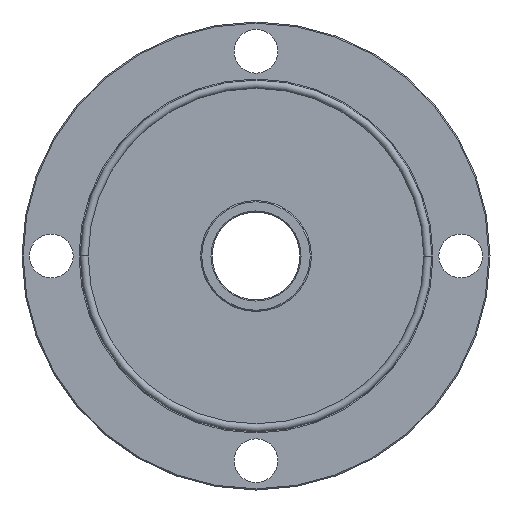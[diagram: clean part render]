
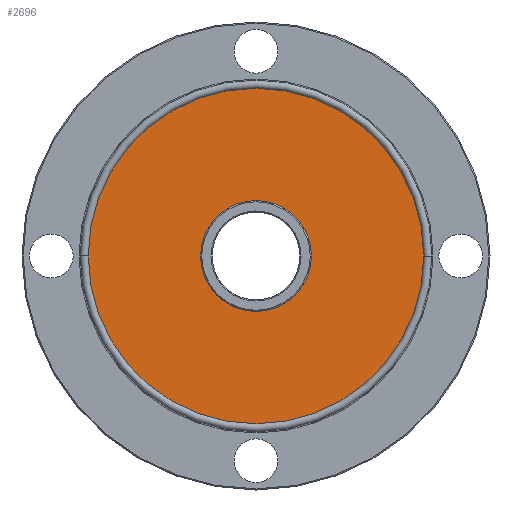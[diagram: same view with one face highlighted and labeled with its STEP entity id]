
A CAD part, left-side view. The second image highlights one B-rep face of the part: STEP entity #2696.
In plain terms, the highlighted planar face has unit normal (-1, 0, 0).
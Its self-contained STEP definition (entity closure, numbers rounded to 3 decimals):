
#2109 = EDGE_CURVE ( 'NONE', #2110, #2114, #27760, .T. ) ;
#2110 = VERTEX_POINT ( 'NONE', #27755 ) ;
#2114 = VERTEX_POINT ( 'NONE', #27744 ) ;
#2211 = EDGE_CURVE ( 'NONE', #2216, #2212, #27963, .T. ) ;
#2212 = VERTEX_POINT ( 'NONE', #27958 ) ;
#2216 = VERTEX_POINT ( 'NONE', #28209 ) ;
#2696 = ADVANCED_FACE ( 'NONE', ( #29720, #29719 ), #29718, .T. ) ;
#2697 = EDGE_LOOP ( 'NONE', ( #2698, #2747 ) ) ;
#2698 = ORIENTED_EDGE ( 'NONE', *, *, #2699, .F. ) ;
#2699 = EDGE_CURVE ( 'NONE', #2212, #2216, #29713, .T. ) ;
#2747 = ORIENTED_EDGE ( 'NONE', *, *, #2211, .F. ) ;
#2748 = EDGE_LOOP ( 'NONE', ( #2749, #2750 ) ) ;
#2749 = ORIENTED_EDGE ( 'NONE', *, *, #2109, .T. ) ;
#2750 = ORIENTED_EDGE ( 'NONE', *, *, #2751, .T. ) ;
#2751 = EDGE_CURVE ( 'NONE', #2114, #2110, #29822, .T. ) ;
#27744 = CARTESIAN_POINT ( 'NONE',  ( 0., 72.82, 0. ) ) ;
#27755 = CARTESIAN_POINT ( 'NONE',  ( 0., -72.82, 0. ) ) ;
#27756 = DIRECTION ( 'NONE',  ( 0., -1., 0. ) ) ;
#27757 = DIRECTION ( 'NONE',  ( -1., 0., 0. ) ) ;
#27758 = CARTESIAN_POINT ( 'NONE',  ( 0., 0., 0. ) ) ;
#27759 = AXIS2_PLACEMENT_3D ( 'NONE', #27758, #27757, #27756 ) ;
#27760 = CIRCLE ( 'NONE', #27759, 72.82 ) ;
#27958 = CARTESIAN_POINT ( 'NONE',  ( 0., 24.063, 0. ) ) ;
#27959 = DIRECTION ( 'NONE',  ( 0., -1., 0. ) ) ;
#27960 = DIRECTION ( 'NONE',  ( -1., 0., 0. ) ) ;
#27961 = CARTESIAN_POINT ( 'NONE',  ( 0., 0., 0. ) ) ;
#27962 = AXIS2_PLACEMENT_3D ( 'NONE', #27961, #27960, #27959 ) ;
#27963 = CIRCLE ( 'NONE', #27962, 24.063 ) ;
#28209 = CARTESIAN_POINT ( 'NONE',  ( 0., -24.063, 0. ) ) ;
#29709 = DIRECTION ( 'NONE',  ( 0., -1., 0. ) ) ;
#29710 = DIRECTION ( 'NONE',  ( -1., 0., 0. ) ) ;
#29711 = CARTESIAN_POINT ( 'NONE',  ( 0., 0., 0. ) ) ;
#29712 = AXIS2_PLACEMENT_3D ( 'NONE', #29711, #29710, #29709 ) ;
#29713 = CIRCLE ( 'NONE', #29712, 24.063 ) ;
#29714 = DIRECTION ( 'NONE',  ( 0., -1., 0. ) ) ;
#29715 = DIRECTION ( 'NONE',  ( -1., 0., 0. ) ) ;
#29716 = CARTESIAN_POINT ( 'NONE',  ( 0., 0., 0. ) ) ;
#29717 = AXIS2_PLACEMENT_3D ( 'NONE', #29716, #29715, #29714 ) ;
#29718 = PLANE ( 'NONE',  #29717 ) ;
#29719 = FACE_OUTER_BOUND ( 'NONE', #2748, .T. ) ;
#29720 = FACE_BOUND ( 'NONE', #2697, .T. ) ;
#29818 = DIRECTION ( 'NONE',  ( 0., -1., 0. ) ) ;
#29819 = DIRECTION ( 'NONE',  ( -1., 0., 0. ) ) ;
#29820 = CARTESIAN_POINT ( 'NONE',  ( 0., 0., 0. ) ) ;
#29821 = AXIS2_PLACEMENT_3D ( 'NONE', #29820, #29819, #29818 ) ;
#29822 = CIRCLE ( 'NONE', #29821, 72.82 ) ;
